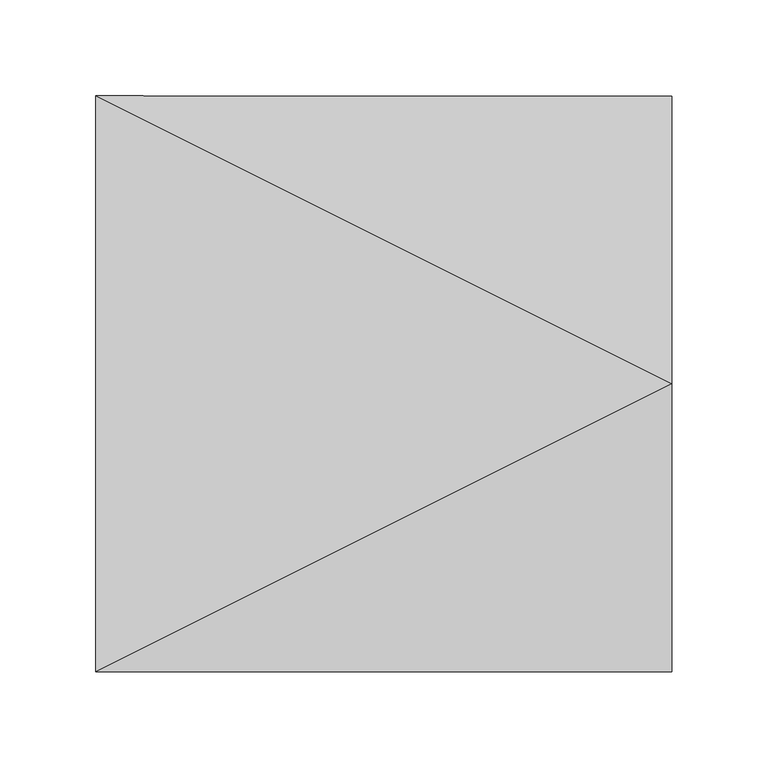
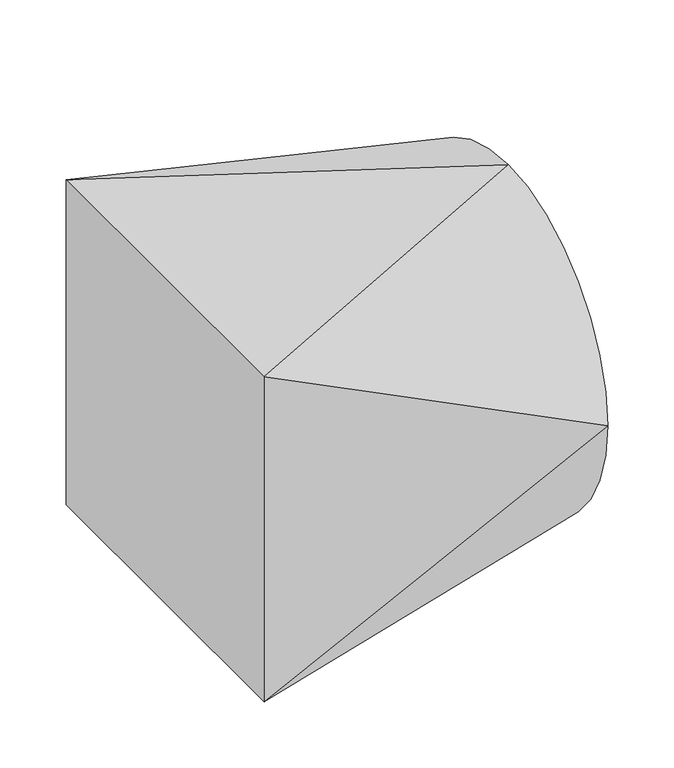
"""IFC4 building model written with IfcOpenShell, lengths in millimetres: duct fitting geometry, Переходник с круглого на прямоугольное сечение - Длина : Стандартное."""

from ifc_helpers import new_model, si_unit, frame, origin, place, context, project, spatial, circle_curve, source, transform, mapped, element, save
from ifc_brep_helpers import plane_surface, spline_surface, advanced_brep


def duct_fitting_a57c2913(model_context):
    return source(origin(), model_context, "Body", "AdvancedBrep", [
        advanced_brep(
        [(300.0, 0.0, 150.0), (300.0, -150.0, 0.0), (300.0, 0.0, -150.0), (300.0, 150.0, 0.0), (0.0, -150.0, 150.0), (0.0, 150.0, 150.0), (0.0, 150.0, -150.0), (0.0, -150.0, -150.0)],
        [
            (0, 1, circle_curve(frame((300.0, 0.0, 0.0), z_axis=(1.0, 0.0, 0.0), x_axis=(0.0, 1.0, 0.0)), 150.0)),
            (1, 2, circle_curve(frame((300.0, 0.0, 0.0), z_axis=(1.0, 0.0, 0.0), x_axis=(0.0, 1.0, 0.0)), 150.0)),
            (2, 3, circle_curve(frame((300.0, 0.0, 0.0), z_axis=(1.0, 0.0, 0.0), x_axis=(0.0, 1.0, 0.0)), 150.0)),
            (3, 0, circle_curve(frame((300.0, 0.0, 0.0), z_axis=(1.0, 0.0, 0.0), x_axis=(0.0, 1.0, 0.0)), 150.0)),
            (4, 5),
            (5, 6),
            (6, 7),
            (7, 4),
            (0, 4),
            (4, 1),
            (7, 1),
            (7, 2),
            (6, 2),
            (6, 3),
            (5, 3),
            (5, 0),
        ],
        [
            plane_surface(frame((300.0, 0.0, 0.0), z_axis=(1.0, 0.0, 0.0), x_axis=(0.0, 0.0, -1.0))),
            plane_surface(frame((0.0, 0.0, 0.0), z_axis=(-1.0, 0.0, 0.0), x_axis=(0.0, 0.0, -1.0))),
            spline_surface(2, 1, [[(0.0, -150.0, 150.0), (300.0, 0.0, 150.0)], [(0.0, -150.0, 150.0), (300.0, -150.0, 150.0)], [(0.0, -150.0, 150.0), (300.0, -150.0, 0.0)]], [3, 3], [2, 2], [0.0, 1.0], [0.0, 1.0], weights=[[1.0, 1.0], [0.7071067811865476, 0.7071067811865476], [1.0, 1.0]]),
            plane_surface(frame((0.0, -150.0, 0.0), z_axis=(0.0, -1.0, 0.0), x_axis=(0.0, 0.0, -1.0))),
            spline_surface(2, 1, [[(0.0, -150.0, -150.0), (300.0, -150.0, 0.0)], [(0.0, -150.0, -150.0), (300.0, -150.0, -150.0)], [(0.0, -150.0, -150.0), (300.0, 0.0, -150.0)]], [3, 3], [2, 2], [0.0, 1.0], [0.0, 1.0], weights=[[1.0, 1.0], [0.7071067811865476, 0.7071067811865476], [1.0, 1.0]]),
            plane_surface(frame((0.0, 0.0, -150.0), z_axis=(0.0, 0.0, -1.0), x_axis=(0.0, 1.0, 0.0))),
            spline_surface(2, 1, [[(0.0, 150.0, -150.0), (300.0, 0.0, -150.0)], [(0.0, 150.0, -150.0), (300.0, 150.0, -150.0)], [(0.0, 150.0, -150.0), (300.0, 150.0, 0.0)]], [3, 3], [2, 2], [0.0, 1.0], [0.0, 1.0], weights=[[1.0, 1.0], [0.7071067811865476, 0.7071067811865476], [1.0, 1.0]]),
            plane_surface(frame((0.0, 150.0, 0.0), z_axis=(0.0, 1.0, 0.0), x_axis=(0.0, 0.0, 1.0))),
            spline_surface(2, 1, [[(0.0, 150.0, 150.0), (300.0, 150.0, 0.0)], [(0.0, 150.0, 150.0), (300.0, 150.0, 150.0)], [(0.0, 150.0, 150.0), (300.0, 0.0, 150.0)]], [3, 3], [2, 2], [0.0, 1.0], [0.0, 1.0], weights=[[1.0, 1.0], [0.7071067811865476, 0.7071067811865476], [1.0, 1.0]]),
            plane_surface(frame((0.0, 0.0, 150.0), z_axis=(0.0, 0.0, 1.0), x_axis=(0.0, -1.0, 0.0))),
        ],
        [
            (0, [[1, 2, 3, 4]]),
            (1, [[5, 6, 7, 8]]),
            (2, [[-1, 9, 10]]),
            (3, [[-8, 11, -10]]),
            (4, [[-2, -11, 12]]),
            (5, [[-7, 13, -12]]),
            (6, [[-3, -13, 14]]),
            (7, [[-6, 15, -14]]),
            (8, [[-4, -15, 16]]),
            (9, [[-5, -9, -16]]),
        ],
    ),
    ])


if __name__ == "__main__":
    model = new_model("IFC4")
    model_context = context("Model", 3, world=origin())
    ifc_project = project(units=[si_unit("LENGTHUNIT", "METRE", prefix="MILLI")], contexts=[model_context])
    site = spatial("IfcSite", under=ifc_project)
    building = spatial("IfcBuilding", under=site)
    placement = place(None, origin())
    duct_fitting_shape = duct_fitting_a57c2913(model_context)
    element("IfcDuctFitting", 1, ObjectType="Переходник с круглого на прямоугольное сечение - Длина : Стандартное", at=placement, inside=building, context=model_context, shape_type="MappedRepresentation", body=[
        mapped(duct_fitting_shape, transform((0.0, 0.0, 0.0), x_axis=(1.0, 0.0, 0.0), y_axis=(0.0, 1.0, 0.0), z_axis=(0.0, 0.0, 1.0))),
    ])
    save(model, "model.ifc")
